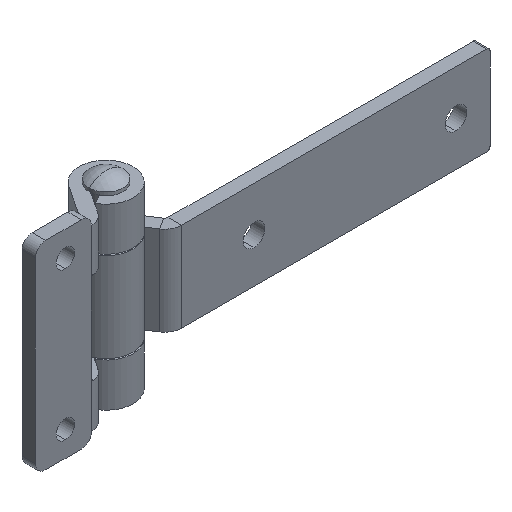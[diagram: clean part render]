
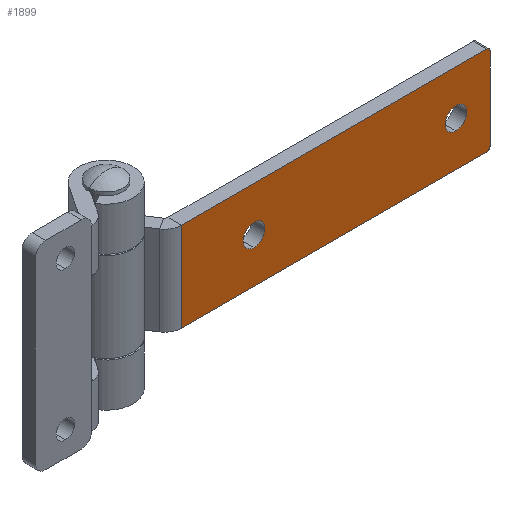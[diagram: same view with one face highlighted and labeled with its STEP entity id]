
A CAD part, isometric view. The second image highlights one B-rep face of the part: STEP entity #1899.
In plain terms, the highlighted planar face has unit normal (0, -1, 0).
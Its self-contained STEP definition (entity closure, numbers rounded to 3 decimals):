
#1 = VERTEX_POINT ( 'NONE', #2239 ) ;
#28 = AXIS2_PLACEMENT_3D ( 'NONE', #2896, #667, #1651 ) ;
#115 = ORIENTED_EDGE ( 'NONE', *, *, #136, .F. ) ;
#136 = EDGE_CURVE ( 'NONE', #465, #1995, #955, .T. ) ;
#155 = DIRECTION ( 'NONE',  ( -1., 0., 0. ) ) ;
#157 = CARTESIAN_POINT ( 'NONE',  ( 99.631, -2.076, 126.5 ) ) ;
#247 = ORIENTED_EDGE ( 'NONE', *, *, #3009, .T. ) ;
#251 = VECTOR ( 'NONE', #155, 1000. ) ;
#280 = CARTESIAN_POINT ( 'NONE',  ( 8.99, -2.076, 100. ) ) ;
#282 = CIRCLE ( 'NONE', #28, 3.25 ) ;
#436 = CARTESIAN_POINT ( 'NONE',  ( 99.631, -2.076, 125.5 ) ) ;
#465 = VERTEX_POINT ( 'NONE', #2840 ) ;
#473 = LINE ( 'NONE', #1242, #704 ) ;
#475 = AXIS2_PLACEMENT_3D ( 'NONE', #887, #1874, #724 ) ;
#532 = AXIS2_PLACEMENT_3D ( 'NONE', #436, #2423, #1895 ) ;
#630 = VERTEX_POINT ( 'NONE', #1537 ) ;
#667 = DIRECTION ( 'NONE',  ( 0., -1., 0. ) ) ;
#704 = VECTOR ( 'NONE', #3225, 1000. ) ;
#707 = FACE_OUTER_BOUND ( 'NONE', #3108, .T. ) ;
#722 = CIRCLE ( 'NONE', #1953, 3.25 ) ;
#724 = DIRECTION ( 'NONE',  ( 0., 0., -1. ) ) ;
#746 = DIRECTION ( 'NONE',  ( 0., 0., -1. ) ) ;
#887 = CARTESIAN_POINT ( 'NONE',  ( 99.631, -2.076, 101. ) ) ;
#935 = CARTESIAN_POINT ( 'NONE',  ( 100.631, -2.076, 125.5 ) ) ;
#937 = ORIENTED_EDGE ( 'NONE', *, *, #1430, .T. ) ;
#955 = CIRCLE ( 'NONE', #3188, 3.25 ) ;
#969 = EDGE_CURVE ( 'NONE', #1164, #2373, #2967, .T. ) ;
#989 = EDGE_CURVE ( 'NONE', #1995, #465, #282, .T. ) ;
#1024 = VERTEX_POINT ( 'NONE', #157 ) ;
#1026 = PLANE ( 'NONE',  #2602 ) ;
#1031 = CARTESIAN_POINT ( 'NONE',  ( 90.546, -2.076, 113.25 ) ) ;
#1036 = LINE ( 'NONE', #1561, #2507 ) ;
#1079 = DIRECTION ( 'NONE',  ( 0., 0., -1. ) ) ;
#1164 = VERTEX_POINT ( 'NONE', #2383 ) ;
#1242 = CARTESIAN_POINT ( 'NONE',  ( 8.449, -2.076, 100. ) ) ;
#1430 = EDGE_CURVE ( 'NONE', #2069, #1024, #1935, .T. ) ;
#1440 = FACE_BOUND ( 'NONE', #2413, .T. ) ;
#1445 = EDGE_CURVE ( 'NONE', #1, #630, #1739, .T. ) ;
#1514 = CARTESIAN_POINT ( 'NONE',  ( 100.631, -2.076, 126.5 ) ) ;
#1537 = CARTESIAN_POINT ( 'NONE',  ( 100.631, -2.076, 101. ) ) ;
#1538 = CARTESIAN_POINT ( 'NONE',  ( 30.546, -2.076, 116.5 ) ) ;
#1561 = CARTESIAN_POINT ( 'NONE',  ( 8.99, -2.076, 126.5 ) ) ;
#1651 = DIRECTION ( 'NONE',  ( 0., 0., -1. ) ) ;
#1660 = ORIENTED_EDGE ( 'NONE', *, *, #1445, .T. ) ;
#1701 = ORIENTED_EDGE ( 'NONE', *, *, #2190, .F. ) ;
#1739 = CIRCLE ( 'NONE', #475, 1. ) ;
#1751 = DIRECTION ( 'NONE',  ( 0., -1., 0. ) ) ;
#1782 = EDGE_LOOP ( 'NONE', ( #1701, #2059 ) ) ;
#1874 = DIRECTION ( 'NONE',  ( 0., -1., 0. ) ) ;
#1887 = ORIENTED_EDGE ( 'NONE', *, *, #2953, .F. ) ;
#1895 = DIRECTION ( 'NONE',  ( 0., 0., -1. ) ) ;
#1898 = DIRECTION ( 'NONE',  ( 0., -1., 0. ) ) ;
#1899 = ADVANCED_FACE ( 'NONE', ( #3200, #1440, #707 ), #1026, .T. ) ;
#1935 = CIRCLE ( 'NONE', #532, 1. ) ;
#1953 = AXIS2_PLACEMENT_3D ( 'NONE', #1031, #2751, #2017 ) ;
#1959 = CARTESIAN_POINT ( 'NONE',  ( 8.449, -2.076, 126.5 ) ) ;
#1963 = CARTESIAN_POINT ( 'NONE',  ( 8.99, -2.076, 126.5 ) ) ;
#1995 = VERTEX_POINT ( 'NONE', #1538 ) ;
#2008 = DIRECTION ( 'NONE',  ( 0., -1., 0. ) ) ;
#2017 = DIRECTION ( 'NONE',  ( 0., 0., -1. ) ) ;
#2059 = ORIENTED_EDGE ( 'NONE', *, *, #969, .F. ) ;
#2069 = VERTEX_POINT ( 'NONE', #935 ) ;
#2190 = EDGE_CURVE ( 'NONE', #2373, #1164, #722, .T. ) ;
#2215 = ORIENTED_EDGE ( 'NONE', *, *, #2552, .F. ) ;
#2237 = AXIS2_PLACEMENT_3D ( 'NONE', #2587, #1898, #2368 ) ;
#2239 = CARTESIAN_POINT ( 'NONE',  ( 99.631, -2.076, 100. ) ) ;
#2304 = DIRECTION ( 'NONE',  ( 0., 0., -1. ) ) ;
#2368 = DIRECTION ( 'NONE',  ( 0., 0., -1. ) ) ;
#2373 = VERTEX_POINT ( 'NONE', #2858 ) ;
#2383 = CARTESIAN_POINT ( 'NONE',  ( 90.546, -2.076, 116.5 ) ) ;
#2413 = EDGE_LOOP ( 'NONE', ( #115, #2897 ) ) ;
#2423 = DIRECTION ( 'NONE',  ( 0., -1., 0. ) ) ;
#2439 = VERTEX_POINT ( 'NONE', #280 ) ;
#2507 = VECTOR ( 'NONE', #1079, 1000. ) ;
#2552 = EDGE_CURVE ( 'NONE', #2069, #630, #3234, .T. ) ;
#2587 = CARTESIAN_POINT ( 'NONE',  ( 90.546, -2.076, 113.25 ) ) ;
#2602 = AXIS2_PLACEMENT_3D ( 'NONE', #1959, #1751, #746 ) ;
#2645 = ORIENTED_EDGE ( 'NONE', *, *, #2952, .T. ) ;
#2745 = DIRECTION ( 'NONE',  ( 0., 0., -1. ) ) ;
#2751 = DIRECTION ( 'NONE',  ( 0., -1., 0. ) ) ;
#2840 = CARTESIAN_POINT ( 'NONE',  ( 30.546, -2.076, 110. ) ) ;
#2858 = CARTESIAN_POINT ( 'NONE',  ( 90.546, -2.076, 110. ) ) ;
#2896 = CARTESIAN_POINT ( 'NONE',  ( 30.546, -2.076, 113.25 ) ) ;
#2897 = ORIENTED_EDGE ( 'NONE', *, *, #989, .F. ) ;
#2928 = VERTEX_POINT ( 'NONE', #1963 ) ;
#2952 = EDGE_CURVE ( 'NONE', #1024, #2928, #2956, .T. ) ;
#2953 = EDGE_CURVE ( 'NONE', #1, #2439, #473, .T. ) ;
#2956 = LINE ( 'NONE', #3195, #251 ) ;
#2967 = CIRCLE ( 'NONE', #2237, 3.25 ) ;
#2993 = CARTESIAN_POINT ( 'NONE',  ( 30.546, -2.076, 113.25 ) ) ;
#3009 = EDGE_CURVE ( 'NONE', #2928, #2439, #1036, .T. ) ;
#3108 = EDGE_LOOP ( 'NONE', ( #1887, #1660, #2215, #937, #2645, #247 ) ) ;
#3188 = AXIS2_PLACEMENT_3D ( 'NONE', #2993, #2008, #2304 ) ;
#3195 = CARTESIAN_POINT ( 'NONE',  ( 8.449, -2.076, 126.5 ) ) ;
#3200 = FACE_BOUND ( 'NONE', #1782, .T. ) ;
#3225 = DIRECTION ( 'NONE',  ( -1., 0., 0. ) ) ;
#3234 = LINE ( 'NONE', #1514, #3247 ) ;
#3247 = VECTOR ( 'NONE', #2745, 1000. ) ;
